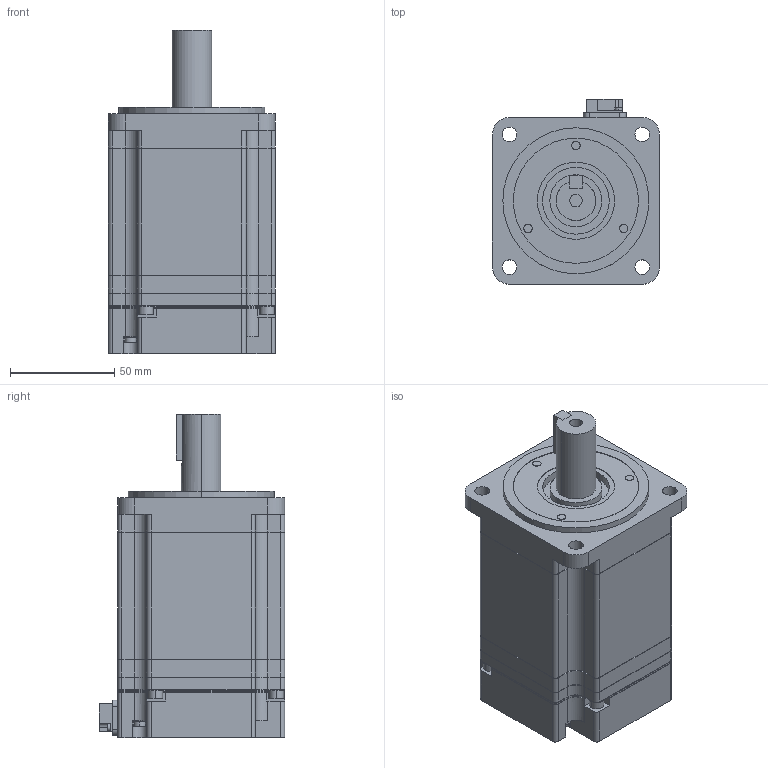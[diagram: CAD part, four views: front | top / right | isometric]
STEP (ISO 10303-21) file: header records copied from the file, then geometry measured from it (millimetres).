
FILE_DESCRIPTION (( 'STEP AP203' ), '1' );
FILE_NAME ('sgmjv_08a3m61.STEP', '2014-10-21T01:55:17', ( '匠エンジニアリング山之内' ), ( 'TAKUMI-Engniaring' ), 'SwSTEP 2.0', 'SolidWorks 2006303', '' );
FILE_SCHEMA (( 'CONFIG_CONTROL_DESIGN' ));
Length unit declared in the file: millimetre
Products named in the file (3): sgmjv_08a3m61_key; sgmjv_08a3m61; sgmjv_08a3m61_base
Assembly tree (2 placements, depth 2):
  sgmjv_08a3m61
    sgmjv_08a3m61_base
    sgmjv_08a3m61_key
Bounding box: 80.1 x 88.8 x 155.1 mm (x, y, z)
Volume: 670572.2 mm3; surface area: 58610.9 mm2
Topology: 2 solids, 2 shells, 491 faces, 1309 edges, 868 vertices
Faces by surface type: plane 278, cylinder 213
Entity records: 15714 total; most frequent: DIRECTION 2735, CARTESIAN_POINT 2703, ORIENTED_EDGE 2618, EDGE_CURVE 1309, AXIS2_PLACEMENT_3D 932, VECTOR 871, LINE 871, VERTEX_POINT 868
